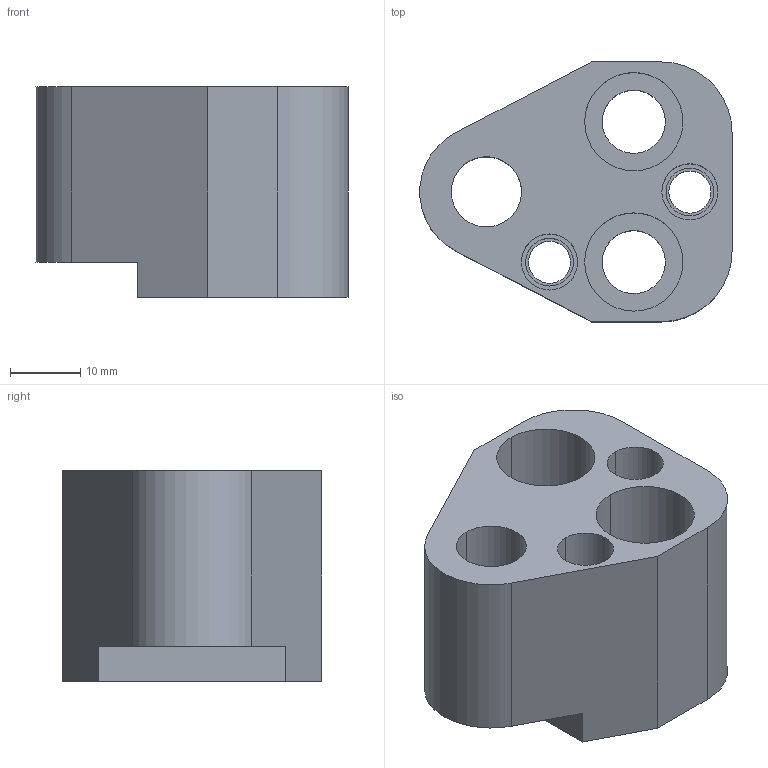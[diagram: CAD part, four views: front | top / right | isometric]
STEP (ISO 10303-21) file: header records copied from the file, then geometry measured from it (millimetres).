
FILE_DESCRIPTION(/* description */ (''),/* implementation_level */ '2;1');
FILE_NAME(/* name */ '3d_hdp-fn10_04041_r00.stp',/* time_stamp */ '2011-01-10T14:14:53+09:00',/* author */ ('MISUMI'),/* organization */ (''),/* preprocessor_version */ 'ST-DEVELOPER v11',/* originating_system */ 'UGS - NX 5.0',/* authorisation */ '');
FILE_SCHEMA (('CONFIG_CONTROL_DESIGN'));
Length unit declared in the file: millimetre
Products named in the file (1): 3d_hdp-fn10_04041_r00
Bounding box: 44.47 x 37 x 30 mm (x, y, z)
Volume: 27062.7 mm3; surface area: 10077.9 mm2
Topology: 1 solids, 1 shells, 42 faces, 104 edges, 69 vertices
Faces by surface type: cylinder 25, plane 15, cone 2
Entity records: 1382 total; most frequent: DIRECTION 242, CARTESIAN_POINT 221, ORIENTED_EDGE 208, EDGE_CURVE 104, AXIS2_PLACEMENT_3D 96, VERTEX_POINT 69, EDGE_LOOP 57, CIRCLE 53
